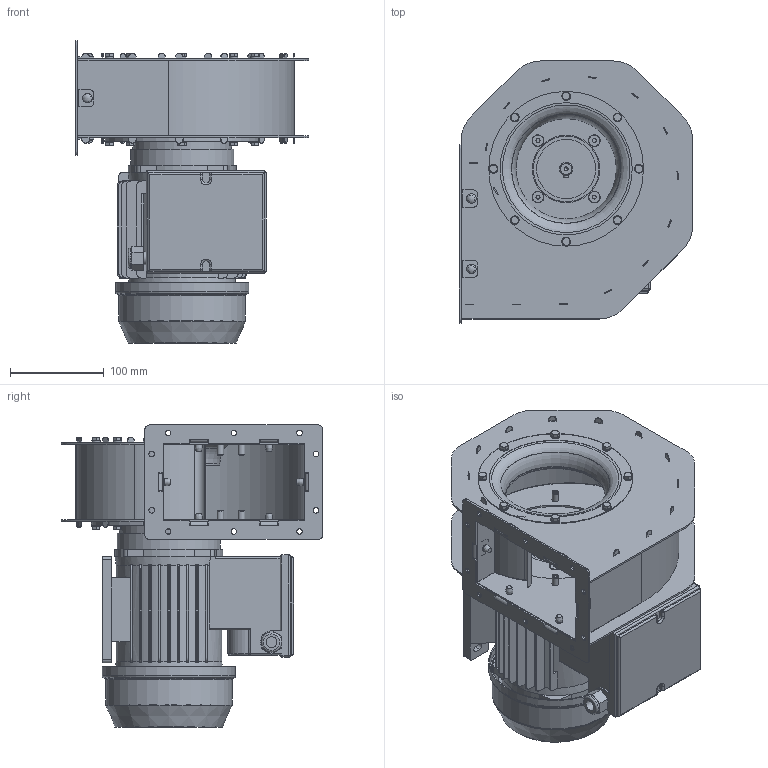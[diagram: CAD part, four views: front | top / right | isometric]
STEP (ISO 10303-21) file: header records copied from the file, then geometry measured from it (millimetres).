
FILE_DESCRIPTION(/* description */ (''),/* implementation_level */ '2;1');
FILE_NAME(/* name */ 'T:\Drawings\Standard Drawings\DATA Web Downloads\3D FILES\HFM-133-52 _ 3D12-0197.stp',/* time_stamp */ '2015-02-18T13:46:41+00:00',/* author */ ('mtinkler'),/* organization */ (''),/* preprocessor_version */ 'ST-DEVELOPER v15.6',/* originating_system */ 'Autodesk Inventor 2015',/* authorisation */ '');
FILE_SCHEMA (('AUTOMOTIVE_DESIGN { 1 0 10303 214 3 1 1 }'));
Products named in the file (1): 3D12-0197
Bounding box: 249 x 279.2 x 322 mm (x, y, z)
Volume: 3174407.7 mm3; surface area: 701074.3 mm2
Topology: 67 solids, 67 shells, 1824 faces, 4695 edges, 3038 vertices
Faces by surface type: plane 1134, cylinder 476, cone 150, torus 41, sphere 17, bspline 6
Full cylindrical faces by diameter (mm): 4.134 x1, 4.8 x6, 4.917 x4, 5 x44, 5.5 x16, 6 x14, 6.5 x4, 7 x16, 7.1 x16, 9 x1, 11.5 x1, 11.7 x4, 14 x2, 21.5 x1, 63 x1, 70 x1, 72 x1, 107 x1, 108.6 x1, 110 x1, 133 x1, 135 x1, 136 x2, 140 x1, 142 x1, 165 x2
Entity records: 56797 total; most frequent: CARTESIAN_POINT 10837, DIRECTION 8950, ORIENTED_EDGE 8762, EDGE_CURVE 4381, AXIS2_PLACEMENT_3D 3096, VERTEX_POINT 2969, LINE 2758, VECTOR 2758
